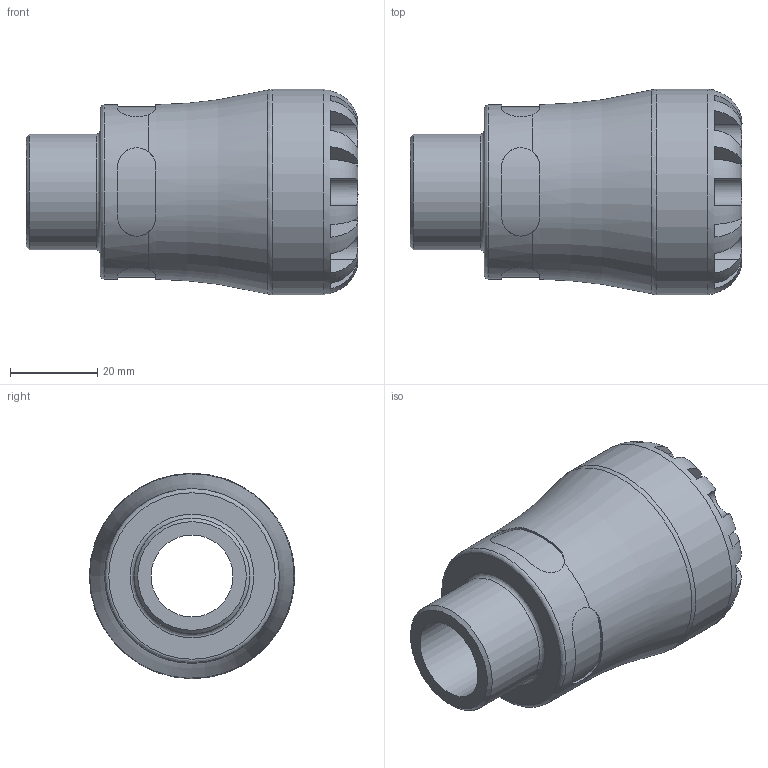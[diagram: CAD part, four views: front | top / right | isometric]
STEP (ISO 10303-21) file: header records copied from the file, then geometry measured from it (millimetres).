
FILE_DESCRIPTION(/* description */ ('PLASSON MALE ADAPTOR 25X3/4" SERIES 1'),/* implementation_level */ '2;1');
FILE_NAME(/* name */ 'C:\Dropbox\KIMPROJECTS-Inventor\99-16-3568-Processing\S1\1002\100200025007_190200025007.ipt.stp',/* time_stamp */ '2017-07-27T14:39:21+03:00',/* author */ ('KIM'),/* organization */ (''),/* preprocessor_version */ 'ST-DEVELOPER v15.6',/* originating_system */ 'Autodesk Inventor 2015',/* authorisation */ '');
FILE_SCHEMA (('AUTOMOTIVE_DESIGN { 1 0 10303 214 3 1 1 }'));
Length unit declared in the file: millimetre
Products named in the file (1): 100200025007_190200025007
Bounding box: 76 x 47 x 47 mm (x, y, z)
Volume: 61656.2 mm3; surface area: 17954.1 mm2
Topology: 1 solids, 1 shells, 100 faces, 257 edges, 161 vertices
Faces by surface type: plane 60, cylinder 33, torus 5, cone 2
Full cylindrical faces by diameter (mm): 18.75 x1, 25 x1, 26.441 x1, 39.95 x1, 47 x1
Entity records: 3784 total; most frequent: CARTESIAN_POINT 1465, ORIENTED_EDGE 484, DIRECTION 462, EDGE_CURVE 242, AXIS2_PLACEMENT_3D 191, VERTEX_POINT 158, EDGE_LOOP 116, FACE_OUTER_BOUND 100
